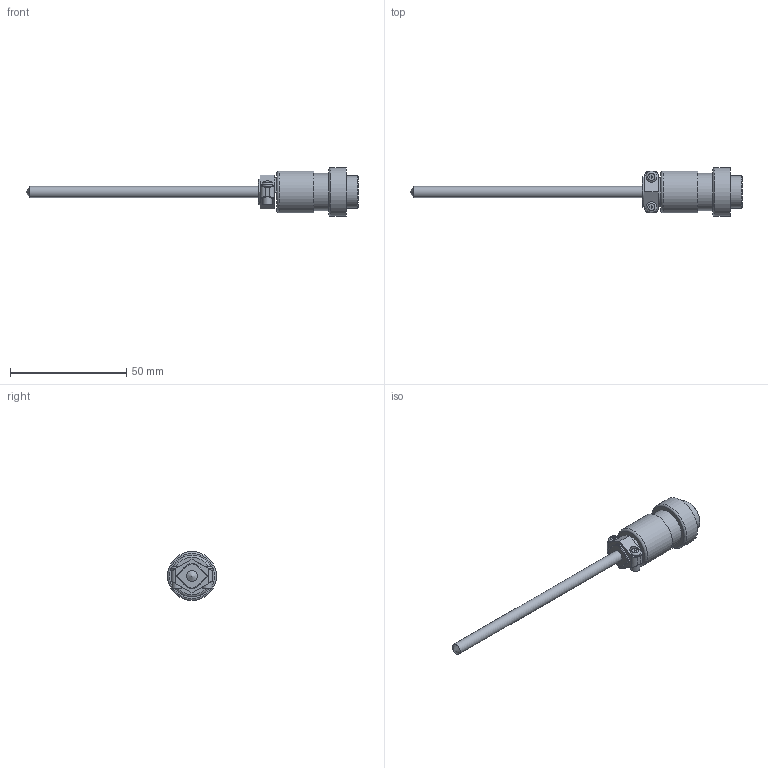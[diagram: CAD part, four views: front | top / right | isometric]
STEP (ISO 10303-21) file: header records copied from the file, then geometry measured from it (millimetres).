
FILE_DESCRIPTION (( 'STEP AP203' ), '1' );
FILE_NAME ('YIT90-3(0).step', '2025-05-28T07:15:01', ( '' ), ( '' ), 'SwSTEP 2.0', 'SolidWorks 2021', '' );
FILE_SCHEMA (( 'CONFIG_CONTROL_DESIGN' ));
Length unit declared in the file: millimetre
Products named in the file (1): YIT90-3(0)
Bounding box: 143 x 21 x 21 mm (x, y, z)
Volume: 10094.1 mm3; surface area: 6246.4 mm2
Topology: 4 solids, 4 shells, 82 faces, 194 edges, 127 vertices
Faces by surface type: plane 50, cylinder 20, torus 4, bspline 4, cone 2, sphere 2
Full cylindrical faces by diameter (mm): 2.5 x1, 3 x1, 4 x2, 4.7 x2, 4.8 x3, 13.5 x1, 14 x1, 16 x2, 18 x1, 21 x1
Entity records: 2381 total; most frequent: CARTESIAN_POINT 615, DIRECTION 328, ORIENTED_EDGE 316, EDGE_CURVE 158, EDGE_LOOP 118, VERTEX_POINT 116, AXIS2_PLACEMENT_3D 113, VECTOR 102
